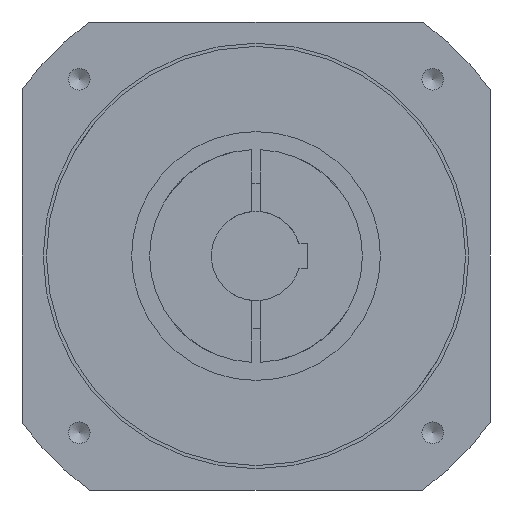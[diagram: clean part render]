
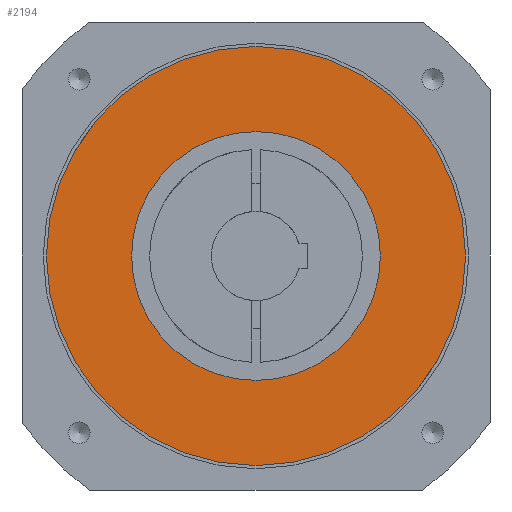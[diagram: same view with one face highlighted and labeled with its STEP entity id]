
A CAD part, front view. The second image highlights one B-rep face of the part: STEP entity #2194.
In plain terms, the highlighted planar face has unit normal (0, -1, 0).
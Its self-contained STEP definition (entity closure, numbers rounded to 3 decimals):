
#180=PLANE('',#2392);
#267=CIRCLE('',#2391,58.5);
#268=CIRCLE('',#2393,98.5);
#541=ORIENTED_EDGE('',*,*,#776,.F.);
#542=ORIENTED_EDGE('',*,*,#775,.T.);
#775=EDGE_CURVE('',#914,#914,#267,.T.);
#776=EDGE_CURVE('',#915,#915,#268,.T.);
#914=VERTEX_POINT('',#3461);
#915=VERTEX_POINT('',#3464);
#1195=EDGE_LOOP('',(#541));
#1196=EDGE_LOOP('',(#542));
#1362=FACE_BOUND('',#1195,.T.);
#1363=FACE_BOUND('',#1196,.T.);
#2194=ADVANCED_FACE('',(#1362,#1363),#180,.F.);
#2391=AXIS2_PLACEMENT_3D('',#3460,#2835,#2836);
#2392=AXIS2_PLACEMENT_3D('',#3462,#2837,#2838);
#2393=AXIS2_PLACEMENT_3D('',#3463,#2839,#2840);
#2835=DIRECTION('',(0.,1.,0.));
#2836=DIRECTION('',(0.,0.,1.));
#2837=DIRECTION('',(0.,1.,0.));
#2838=DIRECTION('',(0.,0.,-1.));
#2839=DIRECTION('',(0.,1.,0.));
#2840=DIRECTION('',(0.,0.,1.));
#3460=CARTESIAN_POINT('',(0.,-164.,0.));
#3461=CARTESIAN_POINT('',(0.,-164.,58.5));
#3462=CARTESIAN_POINT('',(0.,-164.,58.5));
#3463=CARTESIAN_POINT('',(0.,-164.,0.));
#3464=CARTESIAN_POINT('',(0.,-164.,98.5));
